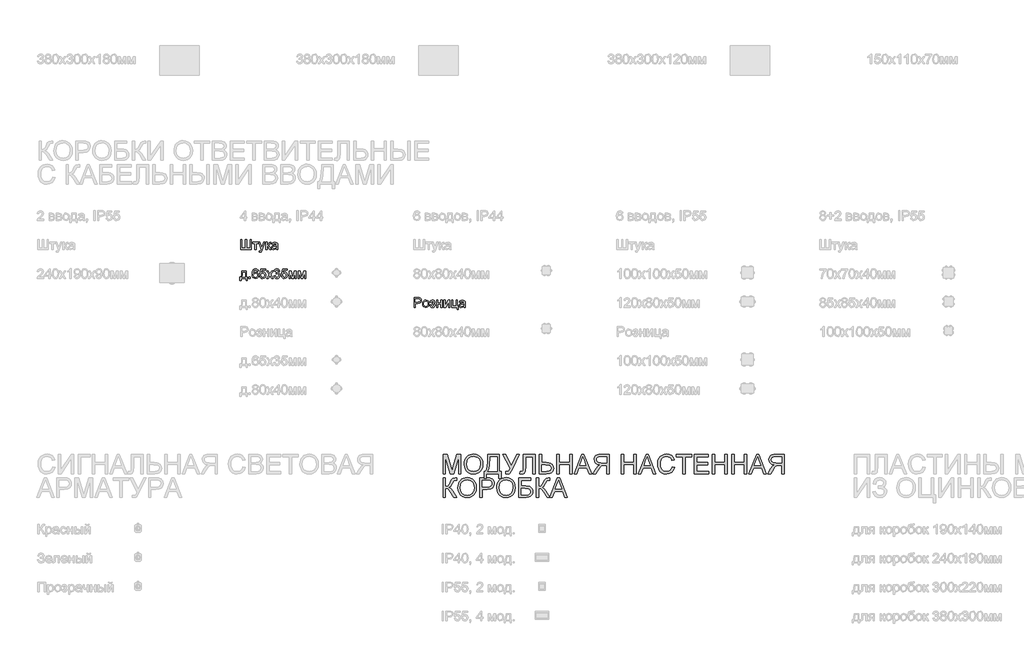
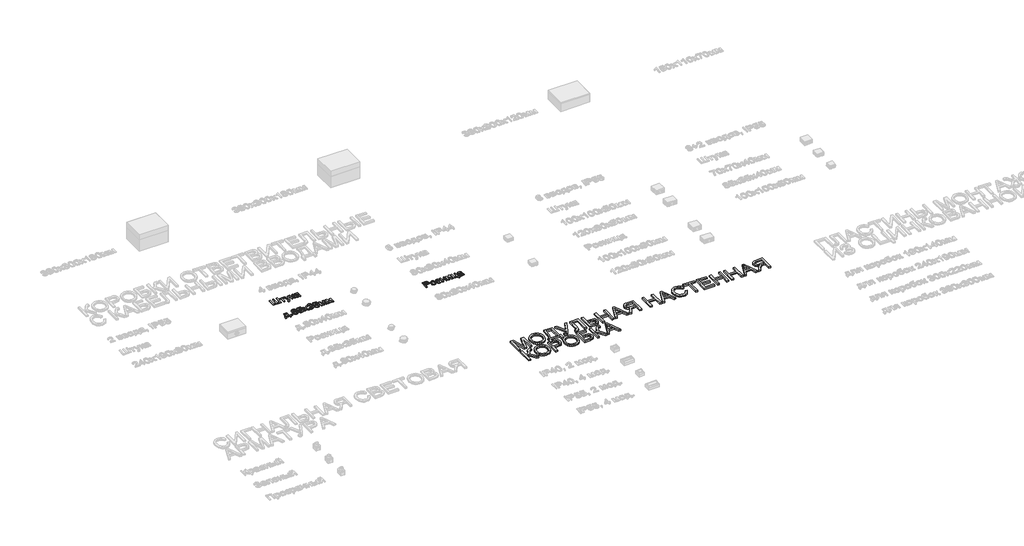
# One storey, part 13 of 98: 4 proxies.
"""IFC4 building model written with IfcOpenShell, lengths in millimetres."""

import ifcopenshell
import ifcopenshell.guid

model = None  # the IFC model being written
_history = None  # IfcOwnerHistory: only IFC2X3 demands one
_inside = {}  # id of a spatial element -> (the spatial element, [elements in it])
_under = {}  # id of a project, library or spatial element -> (it, [spatial elements below it])
_declared = {}  # id of a project -> (the project, [libraries it declares])
_typed = {}  # id of a type object -> (the type object, [elements of that type])
_made_of = {}  # id of a material, layer set ... -> (it, [elements and type objects made of it])


def new_model(schema):
    """Start an empty IFC model of exactly this schema.

    Asked for "IFC4X3", IfcOpenShell would pick the latest addendum, in which some entities
    have other attributes; the version numbers below select the first issue.
    IFC2X3 requires an IfcOwnerHistory on every rooted entity: one is made here for all.
    """
    global model, _history
    if schema == "IFC4X3":
        model = ifcopenshell.file(schema_version=(4, 3, 0, 0))
    else:
        model = ifcopenshell.file(schema=schema)
    _inside.clear()
    _under.clear()
    _declared.clear()
    _typed.clear()
    _made_of.clear()
    _history = None
    if model.schema == "IFC2X3":
        org = make("IfcOrganization", Name="unknown")
        user = make(
            "IfcPersonAndOrganization",
            ThePerson=make("IfcPerson", FamilyName="unknown"),
            TheOrganization=org,
        )
        app = make(
            "IfcApplication",
            ApplicationDeveloper=org,
            Version="unknown",
            ApplicationFullName="unknown",
            ApplicationIdentifier="unknown",
        )
        _history = make(
            "IfcOwnerHistory",
            OwningUser=user,
            OwningApplication=app,
            ChangeAction="ADDED",
            CreationDate=0,
        )
    return model


def make(cls, **values):
    """One entity of the class cls with the attributes given. An attribute that is None is left unset."""
    return model.create_entity(
        cls, **{name: value for name, value in values.items() if value is not None}
    )


def rooted(cls, **values):
    """An entity with a GlobalId (a new one), such as an element, a storey or a relation."""
    return make(cls, GlobalId=ifcopenshell.guid.new(), OwnerHistory=_history, **values)


def si_unit(unit_type, name, prefix=None):
    """IfcSIUnit, for example si_unit("LENGTHUNIT", "METRE", prefix="MILLI")."""
    return make("IfcSIUnit", UnitType=unit_type, Prefix=prefix, Name=name)


def assignment(units):
    """IfcUnitAssignment: the units of a project."""
    return None if units is None else make("IfcUnitAssignment", Units=units)


def point(xyz):
    """IfcCartesianPoint."""
    return None if xyz is None else make("IfcCartesianPoint", Coordinates=xyz)


def direction(xyz):
    """IfcDirection."""
    return None if xyz is None else make("IfcDirection", DirectionRatios=xyz)


def frame(location, z_axis=None, x_axis=None):
    """IfcAxis2Placement3D, a coordinate frame: its origin and axes. An axis left out is left unset."""
    return make(
        "IfcAxis2Placement3D",
        Location=point(location),
        Axis=direction(z_axis),
        RefDirection=direction(x_axis),
    )


def origin():
    """The frame at (0, 0, 0) with its axes left unset."""
    return frame((0.0, 0.0, 0.0))


def origin_with_axes():
    """The frame at (0, 0, 0) with the z axis (0, 0, 1) and the x axis (1, 0, 0) written out."""
    return frame((0.0, 0.0, 0.0), z_axis=(0.0, 0.0, 1.0), x_axis=(1.0, 0.0, 0.0))


def place(relative_to, where):
    """IfcLocalPlacement: puts the frame where relative to a parent placement (None: the world)."""
    return make(
        "IfcLocalPlacement", PlacementRelTo=relative_to, RelativePlacement=where
    )


def context(
    kind, dimensions, precision=None, world=None, true_north=None, identifier=None
):
    """IfcGeometricRepresentationContext, for example the 3D "Model" context."""
    return make(
        "IfcGeometricRepresentationContext",
        ContextIdentifier=identifier,
        ContextType=kind,
        CoordinateSpaceDimension=dimensions,
        Precision=precision,
        WorldCoordinateSystem=world,
        TrueNorth=true_north,
    )


def project(units=None, contexts=None):
    """IfcProject with its units and contexts."""
    return rooted(
        "IfcProject",
        Name="project",
        RepresentationContexts=contexts,
        UnitsInContext=assignment(units),
    )


def spatial(cls, under=None, at=None, **own):
    """A site, building, storey or space (cls), placed at a placement, below another one or the project."""
    s = rooted(cls, ObjectPlacement=at, **own)
    if under is not None:
        _under.setdefault(under.id(), (under, []))[1].append(s)
    return s


def polyline(points):
    """IfcPolyline through the points."""
    return make("IfcPolyline", Points=[point(p) for p in points])


def outline(outer, holes=None, kind="AREA"):
    """IfcArbitraryClosedProfileDef: a profile drawn as a closed curve; with holes, ...WithVoids."""
    if holes is None:
        return make("IfcArbitraryClosedProfileDef", ProfileType=kind, OuterCurve=outer)
    return make(
        "IfcArbitraryProfileDefWithVoids",
        ProfileType=kind,
        OuterCurve=outer,
        InnerCurves=holes,
    )


def extrude(swept, where, along, depth):
    """IfcExtrudedAreaSolid: the profile swept, set in the frame where, extruded along a direction by depth."""
    return make(
        "IfcExtrudedAreaSolid",
        SweptArea=swept,
        Position=where,
        ExtrudedDirection=direction(along),
        Depth=depth,
    )


def shape(context_of_items, identifier, shape_type, items):
    """IfcShapeRepresentation: the items that make up one representation, for example the "Body"."""
    return make(
        "IfcShapeRepresentation",
        ContextOfItems=context_of_items,
        RepresentationIdentifier=identifier,
        RepresentationType=shape_type,
        Items=items,
    )


def made_of(thing, what):
    """Note that an element or type object is made of a material, layer set ...; save() writes the relation."""
    if what is not None:
        _made_of.setdefault(what.id(), (what, []))[1].append(thing)
    return thing


def element(
    cls,
    number,
    at=None,
    inside=None,
    cuts=None,
    type_object=None,
    material=None,
    context=None,
    identifier="Body",
    shape_type=None,
    held_by="IfcProductDefinitionShape",
    body=None,
    shapes=None,
    **own,
):
    """One element of the class cls, such as IfcWall. Its Tag is "e" and its number.

    at: its placement. inside: the storey or other place that contains it. cuts: it is an
    opening in that element (IfcRelVoidsElement). A single representation is given by context,
    identifier, shape_type and body (its items); several are given by shapes. held_by: the class
    of the entity that holds the representations. save() writes the other relations.
    """
    e = rooted(cls, Tag="e%d" % number, ObjectPlacement=at, **own)
    if body is not None:
        shapes = [shape(context, identifier, shape_type, body)]
    if shapes is not None:
        e.Representation = make(held_by, Representations=shapes)
    if inside is not None:
        _inside.setdefault(inside.id(), (inside, []))[1].append(e)
    if cuts is not None:
        rooted(
            "IfcRelVoidsElement", RelatingBuildingElement=cuts, RelatedOpeningElement=e
        )
    if type_object is not None:
        _typed.setdefault(type_object.id(), (type_object, []))[1].append(e)
    return made_of(e, material)


def aggregate(whole, parts):
    """IfcRelAggregates: a whole, such as a stair, and the parts it consists of."""
    return rooted("IfcRelAggregates", RelatingObject=whole, RelatedObjects=parts)


def save(model, path):
    """Write the relations noted so far, then the file.

    IfcRelAggregates (storeys below a building ...), IfcRelContainedInSpatialStructure (elements
    in a storey), IfcRelDefinesByType, IfcRelAssociatesMaterial and IfcRelDeclares: one each for
    every whole, place, type object, material and project.
    """
    for whole, parts in _under.values():
        aggregate(whole, parts)
    for where, things in _inside.values():
        rooted(
            "IfcRelContainedInSpatialStructure",
            RelatedElements=things,
            RelatingStructure=where,
        )
    for kind, things in _typed.values():
        rooted("IfcRelDefinesByType", RelatedObjects=things, RelatingType=kind)
    for what, things in _made_of.values():
        rooted("IfcRelAssociatesMaterial", RelatedObjects=things, RelatingMaterial=what)
    for by, libraries in _declared.values():
        rooted("IfcRelDeclares", RelatingContext=by, RelatedDefinitions=libraries)
    model.write(path)


model = new_model("IFC4")

# Units and contexts
model_context = context("Model", 3, world=origin())
ifc_project = project(units=[si_unit("LENGTHUNIT", "METRE", prefix="MILLI")], contexts=[model_context])

# Site, building, storey
site = spatial("IfcSite", under=ifc_project)
building = spatial("IfcBuilding", under=site)
storey = spatial("IfcBuildingStorey", under=building, Name="Этаж 01", Elevation=0.0)

# Proxies
placement = place(None, origin())
element("IfcBuildingElementProxy", 1, Name="100", ObjectType="100", at=placement, inside=storey, context=model_context, shape_type="SweptSolid", body=[
    extrude(outline(polyline([(2062.0267776, -45359.0558563), (2074.5838164, -45359.0558563), (2074.5838164, -45446.9551277), (2110.6853028, -45446.9551277), (2110.6853028, -45359.0558563), (2123.2423416, -45359.0558563), (2123.2423416, -45446.9551277), (2159.3438281, -45446.9551277), (2159.3438281, -45359.0558563), (2171.9008668, -45359.0558563), (2171.9008668, -45459.5121665), (2062.0267776, -45459.5121665), (2062.0267776, -45359.0558563)])), origin_with_axes(), (0.0, 0.0, 1.0), 10.0),
    extrude(outline(polyline([(2184.4579056, -45385.7395637), (2244.1038398, -45385.7395637), (2244.1038398, -45398.2966025), (2220.5593921, -45398.2966025), (2220.5593921, -45459.5121665), (2208.0023533, -45459.5121665), (2208.0023533, -45398.2966025), (2184.4579056, -45398.2966025), (2184.4579056, -45385.7395637)])), origin_with_axes(), (0.0, 0.0, 1.0), 10.0),
    extrude(outline(polyline([(2255.0912487, -45487.7655037), (2253.5216188, -45475.6744488), (2259.8982401, -45476.7780948), (2265.8579284, -45475.3924059), (2269.5122229, -45471.529645), (2272.9457882, -45462.2835442), (2273.9268068, -45459.2423863), (2247.2430994, -45385.7395637), (2260.4868513, -45385.7395637), (2274.6380454, -45426.6970925), (2279.5676641, -45443.080104), (2284.4972828, -45428.6100789), (2299.0408844, -45385.7395637), (2312.1865343, -45385.7395637), (2286.5083711, -45461.278), (2279.8374442, -45477.6610116), (2272.5533807, -45486.5147049), (2262.7677196, -45489.3351335), (2255.0912487, -45487.7655037)])), origin_with_axes(), (0.0, 0.0, 1.0), 10.0),
    extrude(outline(polyline([(2322.5853321, -45385.7395637), (2335.1423708, -45385.7395637), (2335.1423708, -45417.1321606), (2343.5546058, -45414.8758177), (2350.4462618, -45401.7301677), (2356.1729582, -45390.3871396), (2361.2252043, -45386.6960569), (2370.4099914, -45385.7395637), (2372.8134871, -45385.7395637), (2372.8134871, -45398.3701789), (2369.4289728, -45398.2966025), (2363.2976062, -45399.6209776), (2358.9811241, -45407.8860598), (2353.9166153, -45416.8255923), (2346.8164928, -45421.203388), (2354.7382184, -45426.0900872), (2362.5127913, -45436.3846517), (2375.9527468, -45459.5121665), (2361.6789254, -45459.5121665), (2348.50875, -45436.875161), (2341.8868741, -45427.2979664), (2335.1423708, -45424.9803098), (2335.1423708, -45459.5121665), (2322.5853321, -45459.5121665), (2322.5853321, -45385.7395637)])), origin_with_axes(), (0.0, 0.0, 1.0), 10.0),
    extrude(outline(polyline([(2430.8897914, -45450.0943874), (2418.7128974, -45458.6047242), (2405.2606791, -45461.0817963), (2394.7668452, -45459.5918742), (2387.0259949, -45455.122108), (2382.252726, -45448.3346852), (2380.6616364, -45439.8917934), (2383.0651321, -45429.9589795), (2389.3804396, -45422.7484924), (2398.1728193, -45418.6282141), (2409.0376009, -45416.7397532), (2430.816215, -45412.4232711), (2430.8897914, -45409.6273679), (2427.4317007, -45400.3567416), (2413.5502867, -45396.7269726), (2400.8460952, -45399.142731), (2394.788305, -45407.7143815), (2382.2312662, -45406.1447517), (2387.663657, -45393.8820185), (2398.602015, -45386.6960569), (2415.1689675, -45384.1699338), (2430.3870194, -45386.4017513), (2438.9831953, -45392.0058203), (2442.8336935, -45400.5284199), (2443.4468302, -45411.5158288), (2443.4468302, -45427.1385509), (2444.0844923, -45448.9539532), (2446.5860899, -45459.5121665), (2434.0290511, -45459.5121665), (2430.8897914, -45450.0943874)]), holes=[polyline([(2430.8897914, -45424.9803098), (2410.6317562, -45428.8308081), (2399.8282883, -45430.8664218), (2394.9354578, -45434.1773597), (2393.2186751, -45439.0088766), (2396.9588087, -45445.8024308), (2407.9339549, -45448.5247575), (2420.6381465, -45445.5203879), (2428.8296523, -45438.2485871), (2430.816215, -45428.5365025), (2430.8897914, -45424.9803098)])]), origin_with_axes(), (0.0, 0.0, 1.0), 10.0),
])
element("IfcBuildingElementProxy", 2, Name="100", ObjectType="100", at=placement, inside=storey, context=model_context, shape_type="SweptSolid", body=[
    extrude(outline(polyline([(2073.0141865, -45685.7395637), (2120.1030819, -45685.7395637), (2120.1030819, -45746.9551277), (2129.520861, -45746.9551277), (2129.520861, -45779.9173545), (2116.9638222, -45779.9173545), (2116.9638222, -45759.5121665), (2065.1660373, -45759.5121665), (2065.1660373, -45779.9173545), (2052.6089985, -45779.9173545), (2052.6089985, -45746.9551277), (2060.4571478, -45746.9551277), (2070.1569697, -45723.0060098), (2073.0141865, -45685.7395637)]), holes=[polyline([(2084.0015955, -45698.2966025), (2081.0585395, -45726.905559), (2074.5838164, -45746.9551277), (2107.5460431, -45746.9551277), (2107.5460431, -45698.2966025), (2084.0015955, -45698.2966025)])]), origin_with_axes(), (0.0, 0.0, 1.0), 10.0),
    extrude(outline(polyline([(2146.7867893, -45759.5121665), (2146.7867893, -45746.9551277), (2159.3438281, -45746.9551277), (2159.3438281, -45759.5121665), (2146.7867893, -45759.5121665)])), origin_with_axes(), (0.0, 0.0, 1.0), 10.0),
    extrude(outline(polyline([(2244.1038398, -45685.7395637), (2231.546801, -45687.3091935), (2226.7888605, -45676.8368194), (2214.2072963, -45671.6128951), (2202.8765308, -45674.6540529), (2194.3048803, -45686.0706575), (2190.736425, -45708.4501455), (2201.809673, -45698.4314925), (2215.5316715, -45695.1573428), (2227.132217, -45697.3952916), (2236.8688272, -45704.109138), (2243.472309, -45714.3669143), (2245.6734696, -45727.2366527), (2241.5286658, -45744.5638947), (2230.1243239, -45756.8266279), (2213.667736, -45761.0817963), (2199.4215058, -45758.2613677), (2188.0754119, -45749.8000818), (2180.6533926, -45734.8640728), (2178.1793862, -45712.6194748), (2180.9262384, -45687.6096305), (2189.1667951, -45670.5092491), (2200.4178528, -45661.9192045), (2214.9921112, -45659.0558563), (2226.010177, -45660.8278213), (2234.8332135, -45666.1437161), (2241.013631, -45674.5866079), (2244.1038398, -45685.7395637)]), holes=[polyline([(2190.736425, -45727.040449), (2193.6426927, -45737.9174933), (2201.3682146, -45745.8146935), (2212.6867174, -45748.5247575), (2220.9732593, -45747.1206746), (2227.4878363, -45742.9084257), (2231.7092822, -45736.2865498), (2233.1164308, -45727.6535857), (2231.7276763, -45719.3670437), (2227.5614127, -45713.0486705), (2220.9364711, -45709.0479538), (2212.1716826, -45707.7143815), (2196.9781562, -45713.0486705), (2192.2968578, -45719.2137596), (2190.736425, -45727.040449)])]), origin_with_axes(), (0.0, 0.0, 1.0), 10.0),
    extrude(outline(polyline([(2256.6608785, -45732.8284591), (2269.2179173, -45731.2588292), (2275.5454876, -45744.1960127), (2288.6666121, -45748.5247575), (2297.6674583, -45747.019507), (2304.4119615, -45742.5037555), (2308.6242103, -45735.4986692), (2310.0282933, -45726.5254142), (2304.7675808, -45711.6139307), (2298.1610333, -45707.5120464), (2288.8628158, -45706.1447517), (2277.8386187, -45708.3275182), (2270.7875471, -45713.9929009), (2258.2305084, -45712.4232711), (2269.2179173, -45660.6254862), (2317.8764425, -45660.6254862), (2317.8764425, -45673.1825249), (2279.3714604, -45673.1825249), (2274.0003832, -45700.847251), (2282.9705725, -45695.4025974), (2292.3699575, -45693.5877129), (2304.1023275, -45695.8379245), (2313.8420033, -45702.5885591), (2320.3994999, -45712.8769922), (2322.5853321, -45725.7405993), (2320.6171634, -45738.2976381), (2314.7126574, -45749.0397923), (2303.4064174, -45758.0712953), (2288.6175612, -45761.0817963), (2276.2843173, -45759.1473501), (2266.4588023, -45753.3440117), (2259.7234961, -45744.3462312), (2256.6608785, -45732.8284591)])), origin_with_axes(), (0.0, 0.0, 1.0), 10.0),
    extrude(outline(polyline([(2328.8638514, -45759.5121665), (2355.6947116, -45722.4296613), (2330.4334813, -45685.7395637), (2345.5411686, -45685.7395637), (2357.7303253, -45703.3978995), (2363.4202335, -45711.736558), (2368.3498523, -45704.9184784), (2382.2312662, -45685.7395637), (2397.3389535, -45685.7395637), (2370.8023989, -45722.4296613), (2396.3579348, -45759.5121665), (2381.2502476, -45759.5121665), (2365.8727802, -45737.2185176), (2363.0523515, -45733.1472901), (2343.9715387, -45759.5121665), (2328.8638514, -45759.5121665)])), origin_with_axes(), (0.0, 0.0, 1.0), 10.0),
    extrude(outline(polyline([(2404.2060841, -45732.8284591), (2416.7631228, -45731.2588292), (2423.6915671, -45744.4780556), (2436.653276, -45748.5247575), (2445.2617147, -45747.1329373), (2451.9081161, -45742.9574767), (2457.5734988, -45729.1741646), (2451.957167, -45716.1879302), (2437.6833456, -45711.049845), (2428.8787032, -45712.4232711), (2430.2766548, -45699.8662323), (2432.287743, -45700.0133851), (2446.537039, -45696.4081416), (2451.2827167, -45691.8341421), (2452.8646093, -45685.3226308), (2448.2783471, -45675.5001815), (2436.4570723, -45671.6128951), (2424.4886447, -45675.5369697), (2418.3327527, -45687.3091935), (2405.7757139, -45685.7395637), (2409.472928, -45674.4639805), (2416.0518843, -45666.0456142), (2425.0527304, -45660.8032958), (2436.0156139, -45659.0558563), (2451.1600894, -45662.5016843), (2461.7550908, -45671.9194634), (2465.4216481, -45684.5868668), (2461.9390318, -45696.1628869), (2451.638336, -45704.47702), (2465.3235462, -45713.0609332), (2470.1305376, -45729.3948938), (2467.7270419, -45741.6331015), (2460.5165548, -45751.860221), (2449.6333791, -45758.7764025), (2436.2118176, -45761.0817963), (2424.0717118, -45759.1136276), (2414.1879489, -45753.2091216), (2407.3146869, -45744.1776186), (2404.2060841, -45732.8284591)])), origin_with_axes(), (0.0, 0.0, 1.0), 10.0),
    extrude(outline(polyline([(2481.1179465, -45732.8284591), (2493.6749853, -45731.2588292), (2500.0025556, -45744.1960127), (2513.1236801, -45748.5247575), (2522.1245262, -45747.019507), (2528.8690295, -45742.5037555), (2533.0812783, -45735.4986692), (2534.4853613, -45726.5254142), (2529.2246487, -45711.6139307), (2522.6181013, -45707.5120464), (2513.3198838, -45706.1447517), (2502.2956867, -45708.3275182), (2495.2446151, -45713.9929009), (2482.6875764, -45712.4232711), (2493.6749853, -45660.6254862), (2542.3335105, -45660.6254862), (2542.3335105, -45673.1825249), (2503.8285283, -45673.1825249), (2498.4574512, -45700.847251), (2507.4276405, -45695.4025974), (2516.8270255, -45693.5877129), (2528.5593955, -45695.8379245), (2538.2990713, -45702.5885591), (2544.8565679, -45712.8769922), (2547.0424, -45725.7405993), (2545.0742314, -45738.2976381), (2539.1697254, -45749.0397923), (2527.8634854, -45758.0712953), (2513.0746292, -45761.0817963), (2500.7413853, -45759.1473501), (2490.9158703, -45753.3440117), (2484.1805641, -45744.3462312), (2481.1179465, -45732.8284591)])), origin_with_axes(), (0.0, 0.0, 1.0), 10.0),
    extrude(outline(polyline([(2561.1690687, -45685.7395637), (2582.7760045, -45685.7395637), (2599.4287962, -45744.7968867), (2617.3814375, -45685.7395637), (2638.0809311, -45685.7395637), (2638.0809311, -45759.5121665), (2625.5238924, -45759.5121665), (2625.5238924, -45700.111487), (2607.4731491, -45759.5121665), (2590.9920357, -45759.5121665), (2573.7261074, -45697.2665329), (2573.7261074, -45759.5121665), (2561.1690687, -45759.5121665), (2561.1690687, -45685.7395637)])), origin_with_axes(), (0.0, 0.0, 1.0), 10.0),
    extrude(outline(polyline([(2656.9164893, -45685.7395637), (2678.5234251, -45685.7395637), (2695.1762168, -45744.7968867), (2713.1288581, -45685.7395637), (2733.8283517, -45685.7395637), (2733.8283517, -45759.5121665), (2721.271313, -45759.5121665), (2721.271313, -45700.111487), (2703.2205697, -45759.5121665), (2686.7394563, -45759.5121665), (2669.473528, -45697.2665329), (2669.473528, -45759.5121665), (2656.9164893, -45759.5121665), (2656.9164893, -45685.7395637)])), origin_with_axes(), (0.0, 0.0, 1.0), 10.0),
])
element("IfcBuildingElementProxy", 3, Name="100", ObjectType="100", at=placement, inside=storey, context=model_context, shape_type="SweptSolid", body=[
    extrude(outline(polyline([(3855.1591082, -46059.5121665), (3855.1591082, -45959.0558563), (3892.3887662, -45959.0558563), (3907.3983516, -45960.0123495), (3919.5997711, -45964.7089763), (3927.509234, -45974.421061), (3930.5013409, -45988.1185339), (3928.4810556, -45999.9582028), (3922.4201997, -46009.8235716), (3911.0863686, -46016.4822358), (3893.2471575, -46018.7017905), (3867.716147, -46018.7017905), (3867.716147, -46059.5121665), (3855.1591082, -46059.5121665)]), holes=[polyline([(3867.716147, -46006.1447517), (3893.9829215, -46006.1447517), (3912.4751231, -46001.533964), (3916.5770073, -45995.9850773), (3917.9443021, -45988.5599923), (3914.7192033, -45978.1611946), (3906.2456546, -45972.4712864), (3893.6886159, -45971.6128951), (3867.716147, -45971.6128951), (3867.716147, -46006.1447517)])]), origin_with_axes(), (0.0, 0.0, 1.0), 10.0),
    extrude(outline(polyline([(3943.0583796, -46022.6258651), (3945.774575, -46004.8387706), (3953.9231612, -45992.3369141), (3963.9908652, -45986.2116789), (3976.0451319, -45984.1699338), (3989.2367671, -45986.656203), (3999.7735206, -45994.1150104), (4006.680505, -46005.957745), (4008.9828332, -46021.5957955), (4004.9116058, -46043.9384953), (3993.0535428, -46056.5813732), (3976.0451319, -46061.0817963), (3962.6940811, -46058.6047242), (3952.1695904, -46051.1735079), (3945.3361823, -46039.082453), (3943.0583796, -46022.6258651)]), holes=[polyline([(3955.6154184, -46022.6013396), (3957.0685523, -46033.9658276), (3961.4279539, -46042.0622972), (3967.9885162, -46046.9091424), (3976.0451319, -46048.5247575), (3984.0649594, -46046.8999454), (3990.6132589, -46042.025509), (3994.9726605, -46033.8217405), (3996.4257944, -46022.2089321), (3994.9634635, -46011.175538), (3990.5764707, -46003.189433), (3984.0189741, -45998.3425877), (3976.0451319, -45996.7269726), (3967.9885162, -45998.3364563), (3961.4279539, -46003.1649075), (3957.0685523, -46011.242983), (3955.6154184, -46022.6013396)])]), origin_with_axes(), (0.0, 0.0, 1.0), 10.0),
    extrude(outline(polyline([(4040.3754301, -46026.5499397), (4040.3754301, -46013.9929009), (4050.2837185, -46013.5023916), (4055.2869136, -46010.8904294), (4057.6413584, -46005.4335132), (4054.489836, -45999.0936801), (4046.3596439, -45996.7269726), (4037.9596717, -45999.0814174), (4032.5272809, -46006.1447517), (4018.4006122, -46004.5751218), (4027.8429168, -45989.2712308), (4045.0843196, -45984.1699338), (4055.5812192, -45985.7242353), (4063.5274703, -45990.3871396), (4068.5306654, -45997.2082849), (4070.1983972, -46005.2373094), (4067.8255583, -46013.0364077), (4060.7070417, -46019.0696725), (4069.008912, -46026.8932962), (4071.768027, -46038.1504853), (4070.0175218, -46047.3935204), (4064.7660064, -46054.7174378), (4056.3690998, -46059.4907067), (4045.1824215, -46061.0817963), (4034.2409978, -46059.6102683), (4025.8686167, -46055.1956844), (4020.0652783, -46047.8380445), (4016.8309824, -46037.5373486), (4030.957651, -46035.9677188), (4036.6230337, -46045.238345), (4046.3841693, -46048.5247575), (4055.5566938, -46045.3732351), (4059.2109882, -46037.3166194), (4056.9423826, -46030.719269), (4052.1108657, -46027.1876018), (4042.8279767, -46026.4763633), (4040.3754301, -46026.5499397)])), origin_with_axes(), (0.0, 0.0, 1.0), 10.0),
    extrude(outline(polyline([(4087.4643255, -45985.7395637), (4100.0213642, -45985.7395637), (4100.0213642, -46013.9929009), (4132.983591, -46013.9929009), (4132.983591, -45985.7395637), (4145.5406298, -45985.7395637), (4145.5406298, -46059.5121665), (4132.983591, -46059.5121665), (4132.983591, -46026.5499397), (4100.0213642, -46026.5499397), (4100.0213642, -46059.5121665), (4087.4643255, -46059.5121665), (4087.4643255, -45985.7395637)])), origin_with_axes(), (0.0, 0.0, 1.0), 10.0),
    extrude(outline(polyline([(4164.3761879, -45985.7395637), (4176.9332267, -45985.7395637), (4176.9332267, -46042.0009835), (4207.7862634, -45985.7395637), (4224.0221221, -45985.7395637), (4224.0221221, -46059.5121665), (4211.4650833, -46059.5121665), (4211.4650833, -46003.5941032), (4180.8082504, -46059.5121665), (4164.3761879, -46059.5121665), (4164.3761879, -45985.7395637)])), origin_with_axes(), (0.0, 0.0, 1.0), 10.0),
    extrude(outline(polyline([(4242.8576802, -45985.7395637), (4255.414719, -45985.7395637), (4255.414719, -46046.9551277), (4291.5162055, -46046.9551277), (4291.5162055, -45985.7395637), (4304.0732442, -45985.7395637), (4304.0732442, -46046.9551277), (4311.9213935, -46046.9551277), (4311.9213935, -46079.9173545), (4299.3643547, -46079.9173545), (4299.3643547, -46059.5121665), (4242.8576802, -46059.5121665), (4242.8576802, -45985.7395637)])), origin_with_axes(), (0.0, 0.0, 1.0), 10.0),
    extrude(outline(polyline([(4369.9976978, -46050.0943874), (4357.8208037, -46058.6047242), (4344.3685854, -46061.0817963), (4333.8747515, -46059.5918742), (4326.1339012, -46055.122108), (4321.3606323, -46048.3346852), (4319.7695427, -46039.8917934), (4322.1730384, -46029.9589795), (4328.488346, -46022.7484924), (4337.2807257, -46018.6282141), (4348.1455073, -46016.7397532), (4369.9241214, -46012.4232711), (4369.9976978, -46009.6273679), (4366.539607, -46000.3567416), (4352.6581931, -45996.7269726), (4339.9540015, -45999.142731), (4333.8962113, -46007.7143815), (4321.3391725, -46006.1447517), (4326.7715633, -45993.8820185), (4337.7099213, -45986.6960569), (4354.2768738, -45984.1699338), (4369.4949257, -45986.4017513), (4378.0911017, -45992.0058203), (4381.9415999, -46000.5284199), (4382.5547365, -46011.5158288), (4382.5547365, -46027.1385509), (4383.1923987, -46048.9539532), (4385.6939962, -46059.5121665), (4373.1369575, -46059.5121665), (4369.9976978, -46050.0943874)]), holes=[polyline([(4369.9976978, -46024.9803098), (4349.7396626, -46028.8308081), (4338.9361946, -46030.8664218), (4334.0433641, -46034.1773597), (4332.3265815, -46039.0088766), (4336.0667151, -46045.8024308), (4347.0418613, -46048.5247575), (4359.7460528, -46045.5203879), (4367.9375586, -46038.2485871), (4369.9241214, -46028.5365025), (4369.9976978, -46024.9803098)])]), origin_with_axes(), (0.0, 0.0, 1.0), 10.0),
])
element("IfcBuildingElementProxy", 4, Name="200", ObjectType="200", at=placement, inside=storey, context=model_context, shape_type="SweptSolid", body=[
    extrude(outline(polyline([(4154.6806909, -47782.2475994), (4154.6806909, -47581.3349791), (4197.8945626, -47581.3349791), (4238.9992442, -47722.9450218), (4247.2888518, -47752.5227342), (4256.2651725, -47720.4924752), (4296.683141, -47581.3349791), (4339.8970127, -47581.3349791), (4339.8970127, -47782.2475994), (4314.7829352, -47782.2475994), (4314.7829352, -47606.4490567), (4264.3095254, -47782.2475994), (4230.2681781, -47782.2475994), (4179.7947684, -47606.4490567), (4179.7947684, -47782.2475994), (4154.6806909, -47782.2475994)])), origin_with_axes(), (0.0, 0.0, 1.0), 20.0),
    extrude(outline(polyline([(4374.4288693, -47684.4400397), (4376.1027324, -47660.8741322), (4381.1243216, -47640.0121574), (4389.493637, -47621.8541152), (4401.2106786, -47606.4000057), (4415.5734048, -47594.0606305), (4431.8797742, -47585.246791), (4450.1297869, -47579.9584873), (4470.3234427, -47578.1957194), (4496.6760563, -47581.5066574), (4520.3063431, -47591.4394713), (4539.9267162, -47607.2951853), (4554.2495886, -47628.3748236), (4563.00518, -47653.6605794), (4565.9237105, -47682.1346458), (4562.8518959, -47710.988857), (4553.6364519, -47736.630232), (4538.786282, -47757.7466586), (4518.8102897, -47773.0260241), (4495.382338, -47782.2966504), (4470.1762899, -47785.3868591), (4443.4190062, -47781.9716879), (4419.6538293, -47771.7261744), (4400.0825071, -47755.5761548), (4385.9067876, -47734.4474655), (4377.2983489, -47710.136597), (4374.4288693, -47684.4400397)]), holes=[polyline([(4399.5429469, -47684.6852943), (4404.5645361, -47716.1146794), (4419.6293038, -47740.0637973), (4442.2724406, -47755.2205355), (4470.0291371, -47760.2727816), (4498.1905039, -47755.1714846), (4520.8704289, -47739.8675936), (4529.5938307, -47728.5950761), (4535.824832, -47715.1827117), (4540.809633, -47681.9384421), (4538.6759174, -47659.7061068), (4532.2747707, -47640.490404), (4521.7717398, -47624.7757114), (4507.3323714, -47613.0464071), (4489.913159, -47605.7439495), (4470.4705955, -47603.309797), (4443.4557943, -47608.0002924), (4420.4876951, -47622.0717787), (4411.3243678, -47633.0208666), (4404.7791339, -47647.1061485), (4399.5429469, -47684.6852943)])]), origin_with_axes(), (0.0, 0.0, 1.0), 20.0),
    extrude(outline(polyline([(4619.2911253, -47581.3349791), (4738.5829936, -47581.3349791), (4738.5829936, -47757.1335219), (4757.4185518, -47757.1335219), (4757.4185518, -47829.3364948), (4732.3044742, -47829.3364948), (4732.3044742, -47782.2475994), (4603.5948269, -47782.2475994), (4603.5948269, -47829.3364948), (4578.4807493, -47829.3364948), (4578.4807493, -47757.1335219), (4594.1770478, -47757.1335219), (4605.1644567, -47734.3524294), (4613.0126059, -47702.3068419), (4617.7214955, -47660.9967595), (4619.2911253, -47610.4221822), (4619.2911253, -47581.3349791)]), holes=[polyline([(4713.4689161, -47606.4490567), (4644.4052028, -47606.4490567), (4644.4052028, -47616.5535488), (4639.3039058, -47685.3720074), (4631.7500622, -47725.1400511), (4619.2911253, -47757.1335219), (4713.4689161, -47757.1335219), (4713.4689161, -47606.4490567)])]), origin_with_axes(), (0.0, 0.0, 1.0), 20.0),
    extrude(outline(polyline([(4774.6844801, -47581.3349791), (4802.4963589, -47581.3349791), (4862.5837515, -47700.3325418), (4916.6378793, -47581.3349791), (4944.2045035, -47581.3349791), (4867.9303031, -47737.8565054), (4847.1817586, -47776.3124366), (4837.3347839, -47783.1182535), (4823.9806674, -47785.3868591), (4801.3681875, -47782.2475994), (4801.3681875, -47760.2727816), (4821.1357133, -47760.2727816), (4835.8019422, -47754.6809753), (4849.3890506, -47729.2235412), (4774.6844801, -47581.3349791)])), origin_with_axes(), (0.0, 0.0, 1.0), 20.0),
    extrude(outline(polyline([(4983.4452496, -47581.3349791), (5105.8763776, -47581.3349791), (5105.8763776, -47782.2475994), (5080.7623001, -47782.2475994), (5080.7623001, -47606.4490567), (5008.5593271, -47606.4490567), (5008.5593271, -47708.965506), (5005.6407966, -47754.7055007), (5001.1219795, -47767.6304215), (4993.4025889, -47777.3179807), (4982.8321129, -47783.3696395), (4969.7600394, -47785.3868591), (4948.913393, -47782.2475994), (4952.0526527, -47757.1335219), (4964.0701312, -47760.2727816), (4972.5620739, -47758.5866558), (4978.6137327, -47753.5282783), (4982.2373704, -47742.215907), (4983.4452496, -47721.7677994), (4983.4452496, -47581.3349791)])), origin_with_axes(), (0.0, 0.0, 1.0), 20.0),
    extrude(outline(polyline([(5149.8260133, -47581.3349791), (5174.9400908, -47581.3349791), (5174.9400908, -47666.0949908), (5221.9799353, -47666.0949908), (5250.3620312, -47668.0631595), (5269.6819673, -47673.9676655), (5282.3861589, -47683.2628173), (5290.9210212, -47695.4029231), (5295.7586694, -47709.1678411), (5297.3712188, -47723.3374293), (5293.4961951, -47745.3858235), (5281.8711241, -47764.5402127), (5272.453345, -47772.2871944), (5259.7001025, -47777.8207528), (5224.1872272, -47782.2475994), (5149.8260133, -47782.2475994), (5149.8260133, -47581.3349791)]), holes=[polyline([(5174.9400908, -47757.1335219), (5224.1381763, -47757.1335219), (5248.8843719, -47754.6503184), (5263.1827187, -47747.200708), (5269.9885356, -47736.2439559), (5272.2571413, -47723.2393274), (5270.613935, -47712.7056396), (5265.6843163, -47703.864209), (5258.0139767, -47697.2852527), (5248.1486079, -47693.5389877), (5210.9925264, -47691.2090684), (5174.9400908, -47691.2090684), (5174.9400908, -47757.1335219)])]), origin_with_axes(), (0.0, 0.0, 1.0), 20.0),
    extrude(outline(polyline([(5331.9030754, -47782.2475994), (5331.9030754, -47581.3349791), (5357.017153, -47581.3349791), (5357.017153, -47662.9557311), (5463.7519825, -47662.9557311), (5463.7519825, -47581.3349791), (5488.86606, -47581.3349791), (5488.86606, -47782.2475994), (5463.7519825, -47782.2475994), (5463.7519825, -47688.0698087), (5357.017153, -47688.0698087), (5357.017153, -47782.2475994), (5331.9030754, -47782.2475994)])), origin_with_axes(), (0.0, 0.0, 1.0), 20.0),
    extrude(outline(polyline([(5509.4184008, -47782.2475994), (5589.6166758, -47581.3349791), (5611.0028824, -47581.3349791), (5691.2011574, -47782.2475994), (5664.6646028, -47782.2475994), (5641.6597154, -47719.4624056), (5558.9107919, -47719.4624056), (5535.9549554, -47782.2475994), (5509.4184008, -47782.2475994)]), holes=[polyline([(5568.1323673, -47694.3483281), (5632.487191, -47694.3483281), (5614.3873968, -47644.9540388), (5600.3097791, -47606.4490567), (5587.8017913, -47640.6375568), (5568.1323673, -47694.3483281)])]), origin_with_axes(), (0.0, 0.0, 1.0), 20.0),
    extrude(outline(polyline([(5874.9950022, -47782.2475994), (5849.8809246, -47782.2475994), (5849.8809246, -47694.3483281), (5819.5674482, -47694.3483281), (5804.9993212, -47695.2312448), (5793.0554191, -47700.0137108), (5779.7871418, -47713.0367334), (5760.9025327, -47740.6033576), (5734.7583856, -47782.2475994), (5705.5730807, -47782.2475994), (5739.0748677, -47727.8010642), (5759.4310048, -47701.9512226), (5773.7048262, -47691.2090684), (5748.964762, -47684.5504043), (5731.6436514, -47672.520663), (5721.434926, -47656.113126), (5718.0320176, -47636.3210747), (5720.0860254, -47620.4101784), (5726.2480488, -47605.9340219), (5735.8497689, -47594.2598999), (5748.2228666, -47586.7551072), (5765.1515698, -47582.6900112), (5788.420106, -47581.3349791), (5874.9950022, -47581.3349791), (5874.9950022, -47782.2475994)]), holes=[polyline([(5849.8809246, -47669.2342505), (5849.8809246, -47606.4490567), (5787.3409855, -47606.4490567), (5767.4692264, -47608.6195604), (5753.765622, -47615.1310718), (5745.8009768, -47625.002572), (5743.1460951, -47637.2530424), (5748.713376, -47654.2982415), (5755.5682438, -47661.0550075), (5764.9982856, -47665.6780579), (5793.6685558, -47669.2342505), (5849.8809246, -47669.2342505)])]), origin_with_axes(), (0.0, 0.0, 1.0), 20.0),
    extrude(outline(polyline([(5997.4261302, -47782.2475994), (5997.4261302, -47581.3349791), (6022.5402077, -47581.3349791), (6022.5402077, -47662.9557311), (6129.2750372, -47662.9557311), (6129.2750372, -47581.3349791), (6154.3891148, -47581.3349791), (6154.3891148, -47782.2475994), (6129.2750372, -47782.2475994), (6129.2750372, -47688.0698087), (6022.5402077, -47688.0698087), (6022.5402077, -47782.2475994), (5997.4261302, -47782.2475994)])), origin_with_axes(), (0.0, 0.0, 1.0), 20.0),
    extrude(outline(polyline([(6174.9414556, -47782.2475994), (6255.1397305, -47581.3349791), (6276.5259372, -47581.3349791), (6356.7242121, -47782.2475994), (6330.1876575, -47782.2475994), (6307.1827701, -47719.4624056), (6224.4338467, -47719.4624056), (6201.4780102, -47782.2475994), (6174.9414556, -47782.2475994)]), holes=[polyline([(6233.655422, -47694.3483281), (6298.0102457, -47694.3483281), (6279.9104515, -47644.9540388), (6265.8328339, -47606.4490567), (6253.324846, -47640.6375568), (6233.655422, -47694.3483281)])]), origin_with_axes(), (0.0, 0.0, 1.0), 20.0),
    extrude(outline(polyline([(6524.8217585, -47710.8294414), (6549.935836, -47717.3041646), (6538.3475532, -47746.5691773), (6520.1619199, -47767.9492526), (6496.2741156, -47781.0274575), (6467.57932, -47785.3868591), (6438.4491974, -47782.0881839), (6415.3155512, -47772.1921582), (6397.5836391, -47756.0421386), (6384.6587183, -47733.9814817), (6376.7676495, -47708.045801), (6374.1372932, -47680.2707104), (6377.111006, -47650.9750408), (6386.0321444, -47625.6770223), (6400.4347245, -47605.1798638), (6419.8527625, -47590.2867744), (6442.8821754, -47581.2184832), (6468.1188803, -47578.1957194), (6495.6548476, -47582.1075313), (6518.4206117, -47593.842967), (6535.7049342, -47612.6785251), (6546.7965763, -47637.8907045), (6521.6824988, -47643.8749183), (6512.9759582, -47625.5605263), (6501.081107, -47612.9973562), (6485.8507924, -47605.7316868), (6467.1378616, -47603.309797), (6445.567714, -47605.9953355), (6427.8480645, -47614.0519512), (6414.4019776, -47626.6335155), (6405.6525175, -47642.8938997), (6400.8516575, -47661.2757367), (6399.2513708, -47680.2216594), (6401.145963, -47703.4227506), (6406.8297399, -47723.4845821), (6416.5172991, -47739.640733), (6430.4232385, -47751.1247826), (6447.0944242, -47757.9857819), (6465.0777224, -47760.2727816), (6486.0408648, -47757.1580474), (6503.5091282, -47747.8138447), (6516.6976977, -47732.3382754), (6524.8217585, -47710.8294414)])), origin_with_axes(), (0.0, 0.0, 1.0), 20.0),
    extrude(outline(polyline([(6634.6958477, -47782.2475994), (6634.6958477, -47606.4490567), (6568.7713942, -47606.4490567), (6568.7713942, -47581.3349791), (6725.7343788, -47581.3349791), (6725.7343788, -47606.4490567), (6659.8099252, -47606.4490567), (6659.8099252, -47782.2475994), (6634.6958477, -47782.2475994)])), origin_with_axes(), (0.0, 0.0, 1.0), 20.0),
    extrude(outline(polyline([(6753.987716, -47782.2475994), (6753.987716, -47581.3349791), (6898.3936618, -47581.3349791), (6898.3936618, -47606.4490567), (6779.1017935, -47606.4490567), (6779.1017935, -47666.0949908), (6892.1151424, -47666.0949908), (6892.1151424, -47691.2090684), (6779.1017935, -47691.2090684), (6779.1017935, -47757.1335219), (6901.5329215, -47757.1335219), (6901.5329215, -47782.2475994), (6753.987716, -47782.2475994)])), origin_with_axes(), (0.0, 0.0, 1.0), 20.0),
    extrude(outline(polyline([(6939.2040378, -47782.2475994), (6939.2040378, -47581.3349791), (6964.3181154, -47581.3349791), (6964.3181154, -47662.9557311), (7071.0529449, -47662.9557311), (7071.0529449, -47581.3349791), (7096.1670224, -47581.3349791), (7096.1670224, -47782.2475994), (7071.0529449, -47782.2475994), (7071.0529449, -47688.0698087), (6964.3181154, -47688.0698087), (6964.3181154, -47782.2475994), (6939.2040378, -47782.2475994)])), origin_with_axes(), (0.0, 0.0, 1.0), 20.0),
    extrude(outline(polyline([(7140.1166581, -47782.2475994), (7140.1166581, -47581.3349791), (7165.2307357, -47581.3349791), (7165.2307357, -47662.9557311), (7271.9655652, -47662.9557311), (7271.9655652, -47581.3349791), (7297.0796427, -47581.3349791), (7297.0796427, -47782.2475994), (7271.9655652, -47782.2475994), (7271.9655652, -47688.0698087), (7165.2307357, -47688.0698087), (7165.2307357, -47782.2475994), (7140.1166581, -47782.2475994)])), origin_with_axes(), (0.0, 0.0, 1.0), 20.0),
    extrude(outline(polyline([(7317.6319835, -47782.2475994), (7397.8302585, -47581.3349791), (7419.2164651, -47581.3349791), (7499.4147401, -47782.2475994), (7472.8781855, -47782.2475994), (7449.8732981, -47719.4624056), (7367.1243746, -47719.4624056), (7344.1685381, -47782.2475994), (7317.6319835, -47782.2475994)]), holes=[polyline([(7376.34595, -47694.3483281), (7440.7007737, -47694.3483281), (7422.6009795, -47644.9540388), (7408.5233618, -47606.4490567), (7396.015374, -47640.6375568), (7376.34595, -47694.3483281)])]), origin_with_axes(), (0.0, 0.0, 1.0), 20.0),
    extrude(outline(polyline([(7683.2085849, -47782.2475994), (7658.0945073, -47782.2475994), (7658.0945073, -47694.3483281), (7627.7810309, -47694.3483281), (7613.2129039, -47695.2312448), (7601.2690018, -47700.0137108), (7588.0007245, -47713.0367334), (7569.1161154, -47740.6033576), (7542.9719683, -47782.2475994), (7513.7866634, -47782.2475994), (7547.2884504, -47727.8010642), (7567.6445875, -47701.9512226), (7581.9184089, -47691.2090684), (7557.1783447, -47684.5504043), (7539.8572341, -47672.520663), (7529.6485087, -47656.113126), (7526.2456003, -47636.3210747), (7528.2996081, -47620.4101784), (7534.4616315, -47605.9340219), (7544.0633516, -47594.2598999), (7556.4364493, -47586.7551072), (7573.3651525, -47582.6900112), (7596.6336887, -47581.3349791), (7683.2085849, -47581.3349791), (7683.2085849, -47782.2475994)]), holes=[polyline([(7658.0945073, -47669.2342505), (7658.0945073, -47606.4490567), (7595.5545682, -47606.4490567), (7575.6828091, -47608.6195604), (7561.9792047, -47615.1310718), (7554.0145595, -47625.002572), (7551.3596778, -47637.2530424), (7556.9269587, -47654.2982415), (7563.7818265, -47661.0550075), (7573.2118683, -47665.6780579), (7601.8821385, -47669.2342505), (7658.0945073, -47669.2342505)])]), origin_with_axes(), (0.0, 0.0, 1.0), 20.0),
    extrude(outline(polyline([(4154.6806909, -47825.2846148), (4179.7947684, -47825.2846148), (4179.7947684, -47913.1838862), (4196.797048, -47911.5222859), (4207.8764274, -47906.5374848), (4216.834354, -47894.8081806), (4227.472275, -47872.9130705), (4241.3291635, -47844.8314115), (4257.0254619, -47830.9254721), (4279.4662636, -47825.2846148), (4295.947377, -47825.5789204), (4295.947377, -47850.692998), (4290.4046216, -47850.5458452), (4284.8618662, -47850.3986924), (4273.3594225, -47851.9070085), (4265.2414932, -47856.4319571), (4250.3300096, -47882.2817986), (4232.5490465, -47913.7724974), (4215.2095418, -47924.1712951), (4234.596923, -47935.5265861), (4253.714524, -47959.1936611), (4295.947377, -48026.1972351), (4266.811123, -48026.1972351), (4231.102044, -47969.5924588), (4205.963441, -47940.0392719), (4194.356764, -47934.0244012), (4179.7947684, -47932.0194444), (4179.7947684, -48026.1972351), (4154.6806909, -48026.1972351), (4154.6806909, -47825.2846148)])), origin_with_axes(), (0.0, 0.0, 1.0), 20.0),
    extrude(outline(polyline([(4308.5044158, -47928.3896753), (4310.1782789, -47904.8237679), (4315.1998681, -47883.9617931), (4323.5691835, -47865.8037509), (4335.286225, -47850.3496414), (4349.6489513, -47838.0102662), (4365.9553207, -47829.1964267), (4384.2053333, -47823.908123), (4404.3989892, -47822.1453551), (4430.7516028, -47825.4562931), (4454.3818896, -47835.389107), (4474.0022627, -47851.244821), (4488.325135, -47872.3244593), (4497.0807265, -47897.6102151), (4499.999257, -47926.0842815), (4496.9274423, -47954.9384927), (4487.7119984, -47980.5798677), (4472.8618285, -48001.6962943), (4452.8858362, -48016.9756598), (4429.4578844, -48026.2462861), (4404.2518364, -48029.3364948), (4377.4945526, -48025.9213236), (4353.7293757, -48015.6758101), (4334.1580536, -47999.5257905), (4319.982334, -47978.3971012), (4311.3738953, -47954.0862327), (4308.5044158, -47928.3896753)]), holes=[polyline([(4333.6184933, -47928.63493), (4338.6400826, -47960.0643151), (4353.7048503, -47984.013433), (4376.3479871, -47999.1701712), (4404.1046836, -48004.2224173), (4432.2660503, -47999.1211203), (4454.9459753, -47983.8172293), (4463.6693771, -47972.5447118), (4469.9003784, -47959.1323474), (4474.8851795, -47925.8880778), (4472.7514639, -47903.6557425), (4466.3503172, -47884.4400397), (4455.8472862, -47868.7253471), (4441.4079179, -47856.9960428), (4423.9887054, -47849.6935852), (4404.546142, -47847.2594327), (4377.5313408, -47851.9499281), (4354.5632416, -47866.0214144), (4345.3999142, -47876.9705023), (4338.8546804, -47891.0557842), (4333.6184933, -47928.63493)])]), origin_with_axes(), (0.0, 0.0, 1.0), 20.0),
    extrude(outline(polyline([(4534.5311136, -48026.1972351), (4534.5311136, -47825.2846148), (4608.9904294, -47825.2846148), (4639.0096003, -47827.1976012), (4663.4124393, -47836.5908548), (4672.2845267, -47844.9172506), (4679.2313651, -47856.0150242), (4683.7195254, -47869.1054918), (4685.2155788, -47883.4099701), (4681.1750083, -47907.0893078), (4669.0532965, -47926.8200455), (4659.3458104, -47934.588487), (4646.3856343, -47940.1373737), (4610.7072121, -47944.5764831), (4559.6451912, -47944.5764831), (4559.6451912, -48026.1972351), (4534.5311136, -48026.1972351)]), holes=[polyline([(4559.6451912, -47919.4624056), (4612.1787401, -47919.4624056), (4634.4478635, -47917.1570118), (4649.1631433, -47910.2408302), (4657.3669118, -47899.1430567), (4660.1015013, -47884.2928869), (4658.4889519, -47873.0111723), (4653.6513037, -47863.4952914), (4646.1894305, -47856.3338552), (4636.7042064, -47852.115475), (4611.5901289, -47850.3986924), (4559.6451912, -47850.3986924), (4559.6451912, -47919.4624056)])]), origin_with_axes(), (0.0, 0.0, 1.0), 20.0),
    extrude(outline(polyline([(4710.3296564, -47928.3896753), (4712.0035195, -47904.8237679), (4717.0251087, -47883.9617931), (4725.3944241, -47865.8037509), (4737.1114656, -47850.3496414), (4751.4741919, -47838.0102662), (4767.7805613, -47829.1964267), (4786.0305739, -47823.908123), (4806.2242298, -47822.1453551), (4832.5768434, -47825.4562931), (4856.2071302, -47835.389107), (4875.8275033, -47851.244821), (4890.1503756, -47872.3244593), (4898.9059671, -47897.6102151), (4901.8244976, -47926.0842815), (4898.7526829, -47954.9384927), (4889.537239, -47980.5798677), (4874.6870691, -48001.6962943), (4854.7110768, -48016.9756598), (4831.283125, -48026.2462861), (4806.077077, -48029.3364948), (4779.3197932, -48025.9213236), (4755.5546163, -48015.6758101), (4735.9832942, -47999.5257905), (4721.8075746, -47978.3971012), (4713.1991359, -47954.0862327), (4710.3296564, -47928.3896753)]), holes=[polyline([(4735.4437339, -47928.63493), (4740.4653232, -47960.0643151), (4755.5300909, -47984.013433), (4778.1732277, -47999.1701712), (4805.9299242, -48004.2224173), (4834.0912909, -47999.1211203), (4856.7712159, -47983.8172293), (4865.4946177, -47972.5447118), (4871.725619, -47959.1323474), (4876.7104201, -47925.8880778), (4874.5767045, -47903.6557425), (4868.1755578, -47884.4400397), (4857.6725268, -47868.7253471), (4843.2331585, -47856.9960428), (4825.813946, -47849.6935852), (4806.3713826, -47847.2594327), (4779.3565814, -47851.9499281), (4756.3884822, -47866.0214144), (4747.2251548, -47876.9705023), (4740.679921, -47891.0557842), (4735.4437339, -47928.63493)])]), origin_with_axes(), (0.0, 0.0, 1.0), 20.0),
    extrude(outline(polyline([(4936.3563542, -47825.2846148), (5061.9267419, -47825.2846148), (5061.9267419, -47850.3986924), (4961.4704318, -47850.3986924), (4961.4704318, -47910.0446265), (5008.5102762, -47910.0446265), (5031.8953084, -47911.3199508), (5049.9583143, -47915.1459235), (5063.8274655, -47922.5158262), (5074.6309335, -47934.4229401), (5081.5839032, -47949.7513565), (5083.9015598, -47967.3851668), (5082.2522221, -47982.1924171), (5077.3042093, -47996.0063861), (5069.0820467, -48008.1035723), (5057.6102598, -48017.7604747), (5039.9151359, -48024.088045), (5013.022962, -48026.1972351), (4936.3563542, -48026.1972351), (4936.3563542, -47825.2846148)]), holes=[polyline([(4961.4704318, -48001.0831576), (5015.2793049, -48001.0831576), (5034.2988041, -47999.0107557), (5047.8981752, -47992.79355), (5056.0651555, -47982.4315404), (5058.7874822, -47967.9247271), (5057.2301151, -47957.1212592), (5052.5580138, -47948.2553031), (5045.1084034, -47941.6824781), (5035.2185091, -47937.7584035), (4997.3757145, -47935.1587041), (4961.4704318, -47935.1587041), (4961.4704318, -48001.0831576)])]), origin_with_axes(), (0.0, 0.0, 1.0), 20.0),
    extrude(outline(polyline([(5118.4334164, -47825.2846148), (5143.5474939, -47825.2846148), (5143.5474939, -47913.1838862), (5160.5497734, -47911.5222859), (5171.6291529, -47906.5374848), (5180.5870795, -47894.8081806), (5191.2250005, -47872.9130705), (5205.081889, -47844.8314115), (5220.7781874, -47830.9254721), (5243.2189891, -47825.2846148), (5259.7001025, -47825.5789204), (5259.7001025, -47850.692998), (5254.1573471, -47850.5458452), (5248.6145917, -47850.3986924), (5237.112148, -47851.9070085), (5228.9942187, -47856.4319571), (5214.0827351, -47882.2817986), (5196.301772, -47913.7724974), (5178.9622673, -47924.1712951), (5198.3496485, -47935.5265861), (5217.4672495, -47959.1936611), (5259.7001025, -48026.1972351), (5230.5638485, -48026.1972351), (5194.8547695, -47969.5924588), (5169.7161665, -47940.0392719), (5158.1094895, -47934.0244012), (5143.5474939, -47932.0194444), (5143.5474939, -48026.1972351), (5118.4334164, -48026.1972351), (5118.4334164, -47825.2846148)])), origin_with_axes(), (0.0, 0.0, 1.0), 20.0),
    extrude(outline(polyline([(5258.2776255, -48026.1972351), (5338.4759004, -47825.2846148), (5359.8621071, -47825.2846148), (5440.060382, -48026.1972351), (5413.5238274, -48026.1972351), (5390.51894, -47963.4120413), (5307.7700166, -47963.4120413), (5284.8141801, -48026.1972351), (5258.2776255, -48026.1972351)]), holes=[polyline([(5316.9915919, -47938.2979637), (5381.3464156, -47938.2979637), (5363.2466214, -47888.9036745), (5349.1690037, -47850.3986924), (5336.6610159, -47884.5871925), (5316.9915919, -47938.2979637)])]), origin_with_axes(), (0.0, 0.0, 1.0), 20.0),
])

save(model, "model.ifc")
